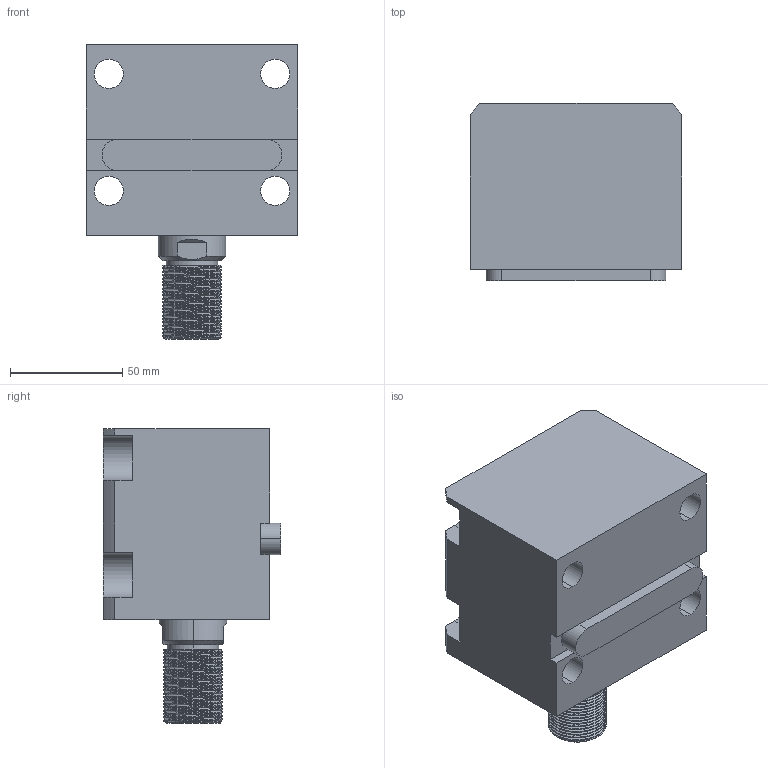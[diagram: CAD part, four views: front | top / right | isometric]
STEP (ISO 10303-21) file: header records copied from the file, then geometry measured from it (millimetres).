
FILE_DESCRIPTION (( 'STEP AP203' ), '1' );
FILE_NAME ('CHTB-LA50-25W.STEP', '2018-05-18T00:25:17', ( '' ), ( '' ), 'SwSTEP 2.0', 'SolidWorks 2015', '' );
FILE_SCHEMA (( 'CONFIG_CONTROL_DESIGN' ));
Length unit declared in the file: millimetre
Products named in the file (4): 掛极LA50-25W; CHTM-SDMA50QG; 活塞杆LA50-25W; CHTB-LA50-25W
Assembly tree (3 placements, depth 2):
  CHTB-LA50-25W
    掛极LA50-25W
    活塞杆LA50-25W
    CHTM-SDMA50QG
Bounding box: 94 x 79 x 131 mm (x, y, z)
Volume: 530420.5 mm3; surface area: 101380.4 mm2
Topology: 3 solids, 3 shells, 244 faces, 670 edges, 447 vertices
Faces by surface type: cylinder 136, plane 55, cone 21, bspline 16, torus 16
Entity records: 15049 total; most frequent: CARTESIAN_POINT 8906, ORIENTED_EDGE 1332, DIRECTION 1073, EDGE_CURVE 666, VERTEX_POINT 447, AXIS2_PLACEMENT_3D 416, EDGE_LOOP 277, FACE_OUTER_BOUND 244
